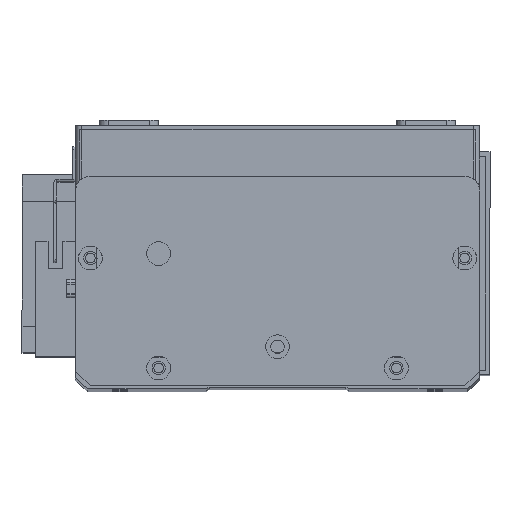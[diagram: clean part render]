
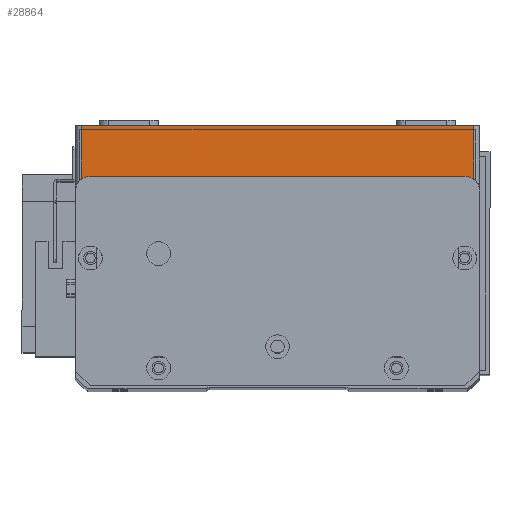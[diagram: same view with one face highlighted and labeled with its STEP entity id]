
A CAD part, top view. The second image highlights one B-rep face of the part: STEP entity #28864.
In plain terms, the highlighted planar face has unit normal (0, 0, 1) as drawn and (0, -1, 0) by its records, which use the part's own axes.
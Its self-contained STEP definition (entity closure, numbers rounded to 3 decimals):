
#1132 = LINE ( 'NONE', #14886, #10968 ) ;
#1716 = DIRECTION ( 'NONE',  ( 0., 1., 0. ) ) ;
#4321 = EDGE_CURVE ( 'NONE', #13859, #9533, #22070, .T. ) ;
#5370 = EDGE_CURVE ( 'NONE', #9154, #9533, #1132, .T. ) ;
#5486 = VERTEX_POINT ( 'NONE', #7957 ) ;
#6331 = LINE ( 'NONE', #20381, #23636 ) ;
#6799 = ORIENTED_EDGE ( 'NONE', *, *, #4321, .F. ) ;
#7040 = AXIS2_PLACEMENT_3D ( 'NONE', #28570, #1716, #17501 ) ;
#7065 = EDGE_LOOP ( 'NONE', ( #6799, #17485, #8526, #28940 ) ) ;
#7894 = CARTESIAN_POINT ( 'NONE',  ( 0., 0., 0. ) ) ;
#7957 = CARTESIAN_POINT ( 'NONE',  ( 2., 0., 0. ) ) ;
#8526 = ORIENTED_EDGE ( 'NONE', *, *, #19336, .T. ) ;
#9154 = VERTEX_POINT ( 'NONE', #23065 ) ;
#9533 = VERTEX_POINT ( 'NONE', #14562 ) ;
#10125 = DIRECTION ( 'NONE',  ( 1., 0., 0. ) ) ;
#10132 = LINE ( 'NONE', #7894, #26722 ) ;
#10968 = VECTOR ( 'NONE', #15083, 1000. ) ;
#12942 = PLANE ( 'NONE',  #7040 ) ;
#13859 = VERTEX_POINT ( 'NONE', #21010 ) ;
#14562 = CARTESIAN_POINT ( 'NONE',  ( 134., 0., 19.5 ) ) ;
#14886 = CARTESIAN_POINT ( 'NONE',  ( 134., 0., 19.5 ) ) ;
#15083 = DIRECTION ( 'NONE',  ( 0., 0., 1. ) ) ;
#15792 = DIRECTION ( 'NONE',  ( 0., 0., -1. ) ) ;
#15807 = CARTESIAN_POINT ( 'NONE',  ( 0., 0., 19.5 ) ) ;
#15972 = DIRECTION ( 'NONE',  ( 1., 0., 0. ) ) ;
#17485 = ORIENTED_EDGE ( 'NONE', *, *, #20698, .T. ) ;
#17501 = DIRECTION ( 'NONE',  ( 0., 0., 1. ) ) ;
#19336 = EDGE_CURVE ( 'NONE', #5486, #9154, #10132, .T. ) ;
#20381 = CARTESIAN_POINT ( 'NONE',  ( 2., 0., 19.5 ) ) ;
#20698 = EDGE_CURVE ( 'NONE', #13859, #5486, #6331, .T. ) ;
#21010 = CARTESIAN_POINT ( 'NONE',  ( 2., 0., 19.5 ) ) ;
#22070 = LINE ( 'NONE', #15807, #26539 ) ;
#23065 = CARTESIAN_POINT ( 'NONE',  ( 134., 0., 0. ) ) ;
#23636 = VECTOR ( 'NONE', #15792, 1000. ) ;
#26539 = VECTOR ( 'NONE', #15972, 1000. ) ;
#26722 = VECTOR ( 'NONE', #10125, 1000. ) ;
#27607 = FACE_OUTER_BOUND ( 'NONE', #7065, .T. ) ;
#28570 = CARTESIAN_POINT ( 'NONE',  ( 0., 0., 19.5 ) ) ;
#28864 = ADVANCED_FACE ( 'NONE', ( #27607 ), #12942, .F. ) ;
#28940 = ORIENTED_EDGE ( 'NONE', *, *, #5370, .T. ) ;
